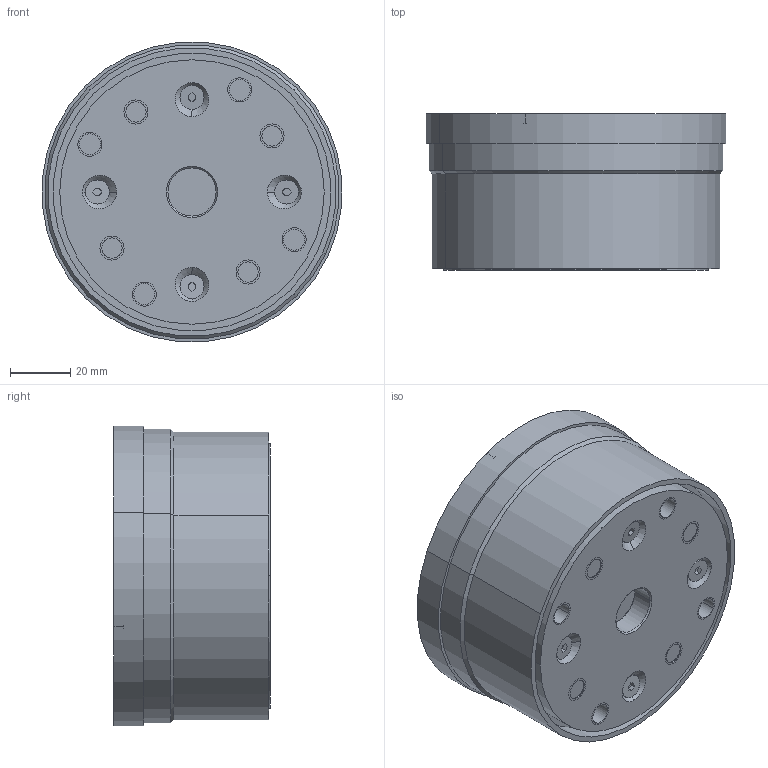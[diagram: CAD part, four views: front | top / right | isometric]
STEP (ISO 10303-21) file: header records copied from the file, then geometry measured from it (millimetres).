
FILE_DESCRIPTION((''),'2;1');
FILE_NAME('BS6-110-088','2018-02-27T',('CSW'),(''),'CREO PARAMETRIC BY PTC INC, 2016260','CREO PARAMETRIC BY PTC INC, 2016260','');
FILE_SCHEMA(('AUTOMOTIVE_DESIGN { 1 0 10303 214 1 1 1 1 }'));
Length unit declared in the file: millimetre
Products named in the file (1): BS6-110-088
Bounding box: 99.62 x 52 x 99.62 mm (x, y, z)
Volume: 372930.9 mm3; surface area: 45707.5 mm2
Topology: 1 solids, 53 shells, 525 faces, 1160 edges, 722 vertices
Faces by surface type: cylinder 218, plane 211, cone 80, torus 16
Entity records: 14768 total; most frequent: CARTESIAN_POINT 2738, DIRECTION 2710, ORIENTED_EDGE 2160, EDGE_CURVE 1144, AXIS2_PLACEMENT_3D 1072, VERTEX_POINT 722, EDGE_LOOP 610, VECTOR 566
